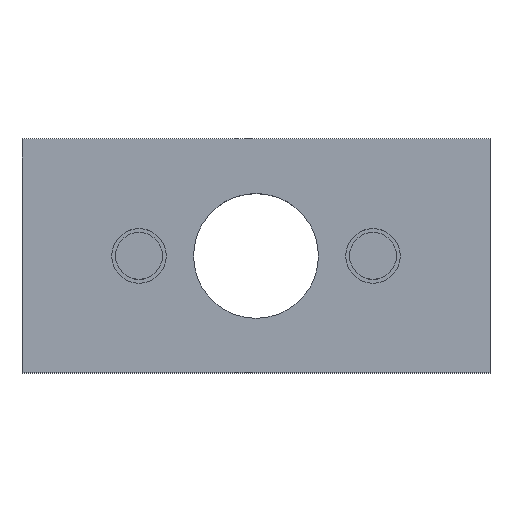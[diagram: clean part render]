
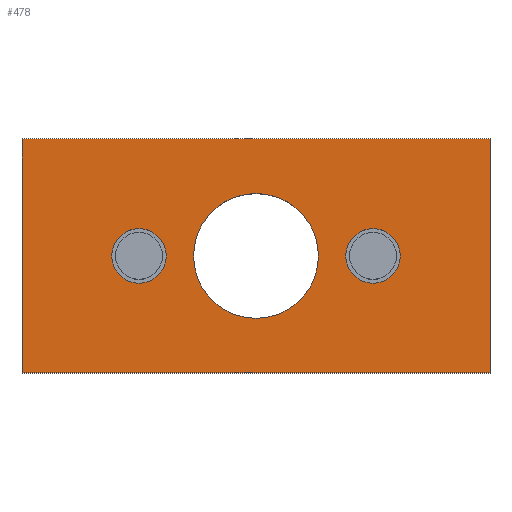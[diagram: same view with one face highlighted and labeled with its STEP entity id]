
A CAD part, top view. The second image highlights one B-rep face of the part: STEP entity #478.
In plain terms, the highlighted planar face has unit normal (0, 0, 1).
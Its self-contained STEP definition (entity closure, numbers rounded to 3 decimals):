
#160=CARTESIAN_POINT('',(-18.5,0.,0.0));
#161=VERTEX_POINT('',#160);
#162=CARTESIAN_POINT('',(-15.,0.,0.0));
#163=DIRECTION('',(0.0,0.0,-1.0));
#164=DIRECTION('',(1.0,0.0,0.0));
#165=AXIS2_PLACEMENT_3D('',#162,#163,#164);
#166=CIRCLE('',#165,3.5);
#167=EDGE_CURVE('',#161,#161,#166,.T.);
#270=CARTESIAN_POINT('',(18.5,0.,0.0));
#271=VERTEX_POINT('',#270);
#272=CARTESIAN_POINT('',(15.,0.,0.0));
#273=DIRECTION('',(0.0,0.0,-1.0));
#274=DIRECTION('',(-1.0,0.0,0.0));
#275=AXIS2_PLACEMENT_3D('',#272,#273,#274);
#276=CIRCLE('',#275,3.5);
#277=EDGE_CURVE('',#271,#271,#276,.T.);
#322=CARTESIAN_POINT('',(8.,0.0,0.0));
#323=VERTEX_POINT('',#322);
#324=CARTESIAN_POINT('',(0.0,0.0,0.0));
#325=DIRECTION('',(0.0,0.0,-1.0));
#326=DIRECTION('',(1.0,0.0,0.0));
#327=AXIS2_PLACEMENT_3D('',#324,#325,#326);
#328=CIRCLE('',#327,8.);
#329=EDGE_CURVE('',#323,#323,#328,.T.);
#349=CARTESIAN_POINT('',(30.,-15.,0.0));
#350=VERTEX_POINT('',#349);
#357=CARTESIAN_POINT('',(-30.,-15.,0.0));
#358=VERTEX_POINT('',#357);
#359=CARTESIAN_POINT('',(30.,-15.,0.0));
#360=DIRECTION('',(-1.0,0.0,0.0));
#361=VECTOR('',#360,60.);
#362=LINE('',#359,#361);
#363=EDGE_CURVE('',#350,#358,#362,.T.);
#387=CARTESIAN_POINT('',(30.,15.,0.0));
#388=VERTEX_POINT('',#387);
#395=CARTESIAN_POINT('',(30.,15.,0.0));
#396=DIRECTION('',(0.0,-1.0,0.0));
#397=VECTOR('',#396,30.);
#398=LINE('',#395,#397);
#399=EDGE_CURVE('',#388,#350,#398,.T.);
#418=CARTESIAN_POINT('',(-30.,15.,0.0));
#419=VERTEX_POINT('',#418);
#426=CARTESIAN_POINT('',(-30.,15.,0.0));
#427=DIRECTION('',(1.0,0.0,0.0));
#428=VECTOR('',#427,60.);
#429=LINE('',#426,#428);
#430=EDGE_CURVE('',#419,#388,#429,.T.);
#448=CARTESIAN_POINT('',(-30.,-15.,0.0));
#449=DIRECTION('',(0.0,1.0,0.0));
#450=VECTOR('',#449,30.);
#451=LINE('',#448,#450);
#452=EDGE_CURVE('',#358,#419,#451,.T.);
#458=CARTESIAN_POINT('',(0.,0.0,0.0));
#459=DIRECTION('',(0.0,0.0,1.0));
#460=DIRECTION('',(1.0,0.0,0.0));
#461=AXIS2_PLACEMENT_3D('',#458,#459,#460);
#462=PLANE('',#461);
#463=ORIENTED_EDGE('',*,*,#452,.F.);
#464=ORIENTED_EDGE('',*,*,#363,.F.);
#465=ORIENTED_EDGE('',*,*,#399,.F.);
#466=ORIENTED_EDGE('',*,*,#430,.F.);
#467=EDGE_LOOP('',(#463,#464,#465,#466));
#468=FACE_OUTER_BOUND('',#467,.T.);
#469=ORIENTED_EDGE('',*,*,#167,.T.);
#470=EDGE_LOOP('',(#469));
#471=FACE_BOUND('',#470,.T.);
#472=ORIENTED_EDGE('',*,*,#277,.T.);
#473=EDGE_LOOP('',(#472));
#474=FACE_BOUND('',#473,.T.);
#475=ORIENTED_EDGE('',*,*,#329,.T.);
#476=EDGE_LOOP('',(#475));
#477=FACE_BOUND('',#476,.T.);
#478=ADVANCED_FACE('',(#468,#471,#474,#477),#462,.T.);
